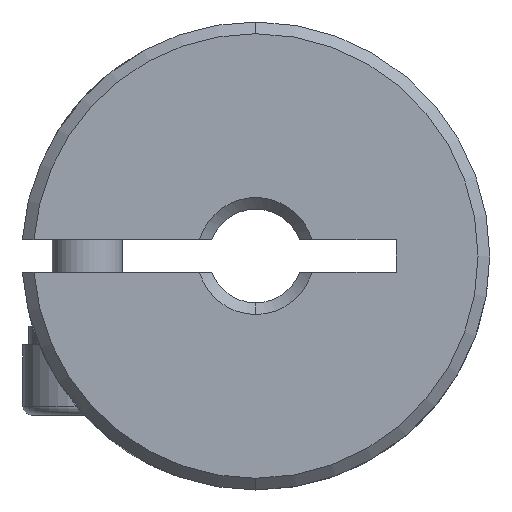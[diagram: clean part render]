
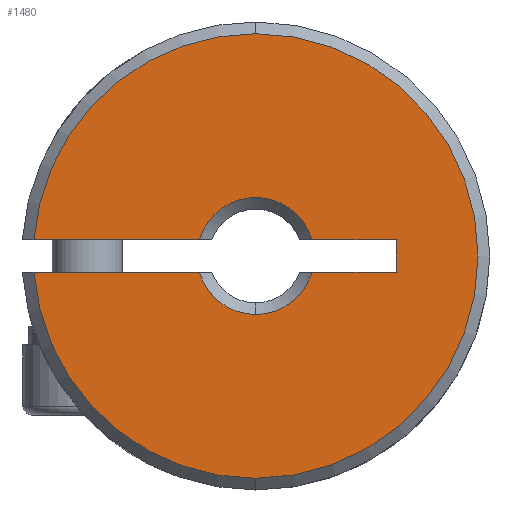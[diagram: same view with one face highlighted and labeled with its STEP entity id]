
A CAD part, front view. The second image highlights one B-rep face of the part: STEP entity #1480.
In plain terms, the highlighted planar face has unit normal (0, -1, 0).
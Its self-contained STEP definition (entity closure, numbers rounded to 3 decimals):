
#3 = ORIENTED_EDGE ( 'NONE', *, *, #3701, .F. ) ;
#11 = DIRECTION ( 'NONE',  ( 0., 0., 1. ) ) ;
#42 = EDGE_CURVE ( 'NONE', #1862, #2589, #1002, .T. ) ;
#135 = CARTESIAN_POINT ( 'NONE',  ( -9.474, 0.25, -0.7 ) ) ;
#191 = ORIENTED_EDGE ( 'NONE', *, *, #1534, .T. ) ;
#220 = VERTEX_POINT ( 'NONE', #2640 ) ;
#221 = CARTESIAN_POINT ( 'NONE',  ( 0., 0.25, 0. ) ) ;
#222 = LINE ( 'NONE', #3216, #934 ) ;
#238 = VECTOR ( 'NONE', #2538, 1000. ) ;
#241 = AXIS2_PLACEMENT_3D ( 'NONE', #252, #2157, #533 ) ;
#252 = CARTESIAN_POINT ( 'NONE',  ( -50., 0.25, 12. ) ) ;
#263 = EDGE_CURVE ( 'NONE', #1767, #3168, #222, .T. ) ;
#279 = DIRECTION ( 'NONE',  ( 0., 1., 0. ) ) ;
#300 = ORIENTED_EDGE ( 'NONE', *, *, #2807, .T. ) ;
#328 = VECTOR ( 'NONE', #3344, 1000. ) ;
#395 = CARTESIAN_POINT ( 'NONE',  ( 0., 0.25, 0. ) ) ;
#418 = CARTESIAN_POINT ( 'NONE',  ( 0., 0.25, 0. ) ) ;
#456 = ORIENTED_EDGE ( 'NONE', *, *, #42, .T. ) ;
#475 = ORIENTED_EDGE ( 'NONE', *, *, #3767, .F. ) ;
#507 = DIRECTION ( 'NONE',  ( 0., -1., 0. ) ) ;
#515 = CARTESIAN_POINT ( 'NONE',  ( 0., 0.25, -2.5 ) ) ;
#533 = DIRECTION ( 'NONE',  ( 0., 0., 1. ) ) ;
#592 = ORIENTED_EDGE ( 'NONE', *, *, #2970, .F. ) ;
#607 = DIRECTION ( 'NONE',  ( 0., 1., 0. ) ) ;
#644 = DIRECTION ( 'NONE',  ( 1., 0., 0. ) ) ;
#801 = EDGE_CURVE ( 'NONE', #2589, #220, #1354, .T. ) ;
#918 = ORIENTED_EDGE ( 'NONE', *, *, #801, .T. ) ;
#934 = VECTOR ( 'NONE', #644, 1000. ) ;
#945 = DIRECTION ( 'NONE',  ( 0., 0., 1. ) ) ;
#962 = EDGE_CURVE ( 'NONE', #2952, #1227, #3040, .T. ) ;
#1001 = AXIS2_PLACEMENT_3D ( 'NONE', #221, #507, #2333 ) ;
#1002 = CIRCLE ( 'NONE', #3654, 9.5 ) ;
#1006 = DIRECTION ( 'NONE',  ( 0., 0., 1. ) ) ;
#1082 = AXIS2_PLACEMENT_3D ( 'NONE', #1783, #2064, #2654 ) ;
#1111 = ORIENTED_EDGE ( 'NONE', *, *, #962, .F. ) ;
#1131 = AXIS2_PLACEMENT_3D ( 'NONE', #418, #1849, #1006 ) ;
#1173 = CARTESIAN_POINT ( 'NONE',  ( 0., 0.25, 0. ) ) ;
#1227 = VERTEX_POINT ( 'NONE', #2828 ) ;
#1250 = CARTESIAN_POINT ( 'NONE',  ( 2.4, 0.25, 0.7 ) ) ;
#1256 = DIRECTION ( 'NONE',  ( 0., -1., 0. ) ) ;
#1354 = CIRCLE ( 'NONE', #1001, 9.5 ) ;
#1406 = ORIENTED_EDGE ( 'NONE', *, *, #3372, .T. ) ;
#1464 = CIRCLE ( 'NONE', #1082, 9.5 ) ;
#1480 = ADVANCED_FACE ( 'NONE', ( #2090 ), #3686, .F. ) ;
#1534 = EDGE_CURVE ( 'NONE', #2952, #1984, #2678, .T. ) ;
#1623 = CARTESIAN_POINT ( 'NONE',  ( 0., 0.25, -9.5 ) ) ;
#1723 = DIRECTION ( 'NONE',  ( 1., 0., 0. ) ) ;
#1766 = LINE ( 'NONE', #3069, #328 ) ;
#1767 = VERTEX_POINT ( 'NONE', #135 ) ;
#1783 = CARTESIAN_POINT ( 'NONE',  ( 0., 0.25, 0. ) ) ;
#1826 = CARTESIAN_POINT ( 'NONE',  ( -2.4, 0.25, -0.7 ) ) ;
#1849 = DIRECTION ( 'NONE',  ( 0., 1., 0. ) ) ;
#1862 = VERTEX_POINT ( 'NONE', #1623 ) ;
#1910 = LINE ( 'NONE', #3170, #2653 ) ;
#1978 = CARTESIAN_POINT ( 'NONE',  ( 6., 0.25, -0.7 ) ) ;
#1981 = CARTESIAN_POINT ( 'NONE',  ( 6., 0.25, 0.7 ) ) ;
#1984 = VERTEX_POINT ( 'NONE', #515 ) ;
#2064 = DIRECTION ( 'NONE',  ( 0., -1., 0. ) ) ;
#2070 = CIRCLE ( 'NONE', #3189, 2.5 ) ;
#2072 = CARTESIAN_POINT ( 'NONE',  ( 2.4, 0.25, -0.7 ) ) ;
#2090 = FACE_OUTER_BOUND ( 'NONE', #2501, .T. ) ;
#2113 = AXIS2_PLACEMENT_3D ( 'NONE', #2835, #279, #3721 ) ;
#2157 = DIRECTION ( 'NONE',  ( 0., 1., 0. ) ) ;
#2333 = DIRECTION ( 'NONE',  ( 0., 0., 1. ) ) ;
#2384 = CARTESIAN_POINT ( 'NONE',  ( -2.4, 0.25, 0.7 ) ) ;
#2501 = EDGE_LOOP ( 'NONE', ( #2864, #300, #456, #918, #592, #3219, #475, #3, #1111, #191, #1406 ) ) ;
#2538 = DIRECTION ( 'NONE',  ( 0., 0., 1. ) ) ;
#2589 = VERTEX_POINT ( 'NONE', #2629 ) ;
#2629 = CARTESIAN_POINT ( 'NONE',  ( 0., 0.25, 9.5 ) ) ;
#2640 = CARTESIAN_POINT ( 'NONE',  ( -9.474, 0.25, 0.7 ) ) ;
#2653 = VECTOR ( 'NONE', #2859, 1000. ) ;
#2654 = DIRECTION ( 'NONE',  ( 0., 0., 1. ) ) ;
#2658 = CIRCLE ( 'NONE', #1131, 2.5 ) ;
#2678 = CIRCLE ( 'NONE', #2113, 2.5 ) ;
#2779 = VERTEX_POINT ( 'NONE', #2384 ) ;
#2807 = EDGE_CURVE ( 'NONE', #1767, #1862, #1464, .T. ) ;
#2808 = VERTEX_POINT ( 'NONE', #3522 ) ;
#2828 = CARTESIAN_POINT ( 'NONE',  ( 6., 0.25, -0.7 ) ) ;
#2835 = CARTESIAN_POINT ( 'NONE',  ( 0., 0.25, 0. ) ) ;
#2859 = DIRECTION ( 'NONE',  ( -1., 0., 0. ) ) ;
#2864 = ORIENTED_EDGE ( 'NONE', *, *, #263, .F. ) ;
#2952 = VERTEX_POINT ( 'NONE', #2072 ) ;
#2970 = EDGE_CURVE ( 'NONE', #2779, #220, #1766, .T. ) ;
#3040 = LINE ( 'NONE', #1978, #3609 ) ;
#3069 = CARTESIAN_POINT ( 'NONE',  ( 6., 0.25, 0.7 ) ) ;
#3168 = VERTEX_POINT ( 'NONE', #1826 ) ;
#3170 = CARTESIAN_POINT ( 'NONE',  ( 6., 0.25, 0.7 ) ) ;
#3189 = AXIS2_PLACEMENT_3D ( 'NONE', #1173, #607, #11 ) ;
#3216 = CARTESIAN_POINT ( 'NONE',  ( 6., 0.25, -0.7 ) ) ;
#3219 = ORIENTED_EDGE ( 'NONE', *, *, #3757, .T. ) ;
#3344 = DIRECTION ( 'NONE',  ( -1., 0., 0. ) ) ;
#3372 = EDGE_CURVE ( 'NONE', #1984, #3168, #2658, .T. ) ;
#3392 = LINE ( 'NONE', #1981, #238 ) ;
#3509 = VERTEX_POINT ( 'NONE', #1250 ) ;
#3522 = CARTESIAN_POINT ( 'NONE',  ( 6., 0.25, 0.7 ) ) ;
#3609 = VECTOR ( 'NONE', #1723, 1000. ) ;
#3654 = AXIS2_PLACEMENT_3D ( 'NONE', #395, #1256, #945 ) ;
#3686 = PLANE ( 'NONE',  #241 ) ;
#3701 = EDGE_CURVE ( 'NONE', #1227, #2808, #3392, .T. ) ;
#3721 = DIRECTION ( 'NONE',  ( 0., 0., 1. ) ) ;
#3757 = EDGE_CURVE ( 'NONE', #2779, #3509, #2070, .T. ) ;
#3767 = EDGE_CURVE ( 'NONE', #2808, #3509, #1910, .T. ) ;
